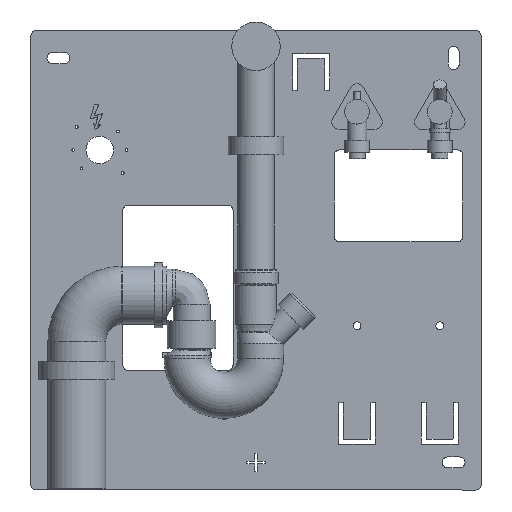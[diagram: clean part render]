
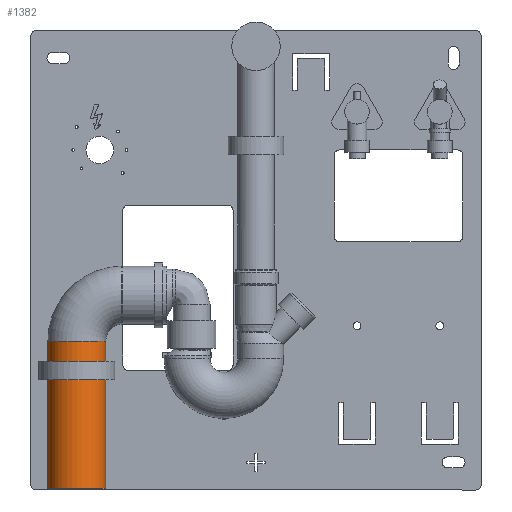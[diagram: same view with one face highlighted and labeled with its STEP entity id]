
A CAD part, front view. The second image highlights one B-rep face of the part: STEP entity #1382.
In plain terms, the highlighted cylindrical face has radius 31.5 mm (diameter 63 mm), a full revolution.
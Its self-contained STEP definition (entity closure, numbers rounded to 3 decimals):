
#1382=ADVANCED_FACE('',(#2845,#2846),#2847,.T.);
#2845=FACE_BOUND('',#4861,.T.);
#2846=FACE_BOUND('',#4862,.T.);
#2847=CYLINDRICAL_SURFACE('',#4863,31.5);
#4861=EDGE_LOOP('',(#6061));
#4862=EDGE_LOOP('',(#6062));
#4863=AXIS2_PLACEMENT_3D('',#6063,#6064,#6065);
#6061=ORIENTED_EDGE('',*,*,#8908,.F.);
#6062=ORIENTED_EDGE('',*,*,#8909,.T.);
#6063=CARTESIAN_POINT('',(-136.765,-50.0,190.0));
#6064=DIRECTION('',(0.,0.,1.0));
#6065=DIRECTION('',(0.,1.0,0.));
#8908=EDGE_CURVE('',#11394,#11394,#11395,.T.);
#8909=EDGE_CURVE('',#11396,#11396,#11397,.T.);
#11394=VERTEX_POINT('',#13034);
#11395=CIRCLE('',#13035,31.5);
#11396=VERTEX_POINT('',#13036);
#11397=CIRCLE('',#13037,31.5);
#13034=CARTESIAN_POINT('',(-105.265,-50.0,350.));
#13035=AXIS2_PLACEMENT_3D('',#14837,#14838,#14839);
#13036=CARTESIAN_POINT('',(-136.765,-18.5,190.0));
#13037=AXIS2_PLACEMENT_3D('',#14840,#14841,#14842);
#14837=CARTESIAN_POINT('',(-136.765,-50.0,350.));
#14838=DIRECTION('',(0.0,0.0,1.0));
#14839=DIRECTION('',(-1.0,0.0,0.0));
#14840=CARTESIAN_POINT('',(-136.765,-50.0,190.0));
#14841=DIRECTION('',(0.,0.,1.0));
#14842=DIRECTION('',(0.,1.0,0.));
